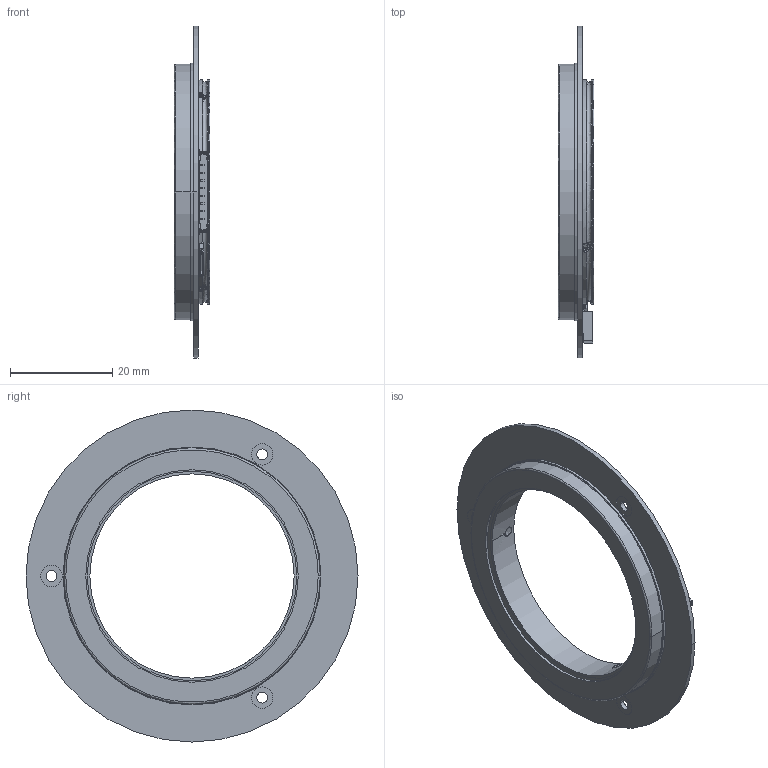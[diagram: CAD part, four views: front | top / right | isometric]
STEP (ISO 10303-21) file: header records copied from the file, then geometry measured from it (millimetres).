
FILE_DESCRIPTION (( 'STEP AP214' ), '1' );
FILE_NAME ('MBS-40-65¸üÐÂ.STEP', '2024-07-16T05:51:58', ( '' ), ( '' ), 'SwSTEP 2.0', 'SolidWorks 2016', '' );
FILE_SCHEMA (( 'AUTOMOTIVE_DESIGN' ));
Length unit declared in the file: millimetre
Products named in the file (1): MBS-40-65載陔
Bounding box: 7.01 x 65 x 65 mm (x, y, z)
Volume: 3698.5 mm3; surface area: 10074.9 mm2
Topology: 6 solids, 46 shells, 1392 faces, 3736 edges, 2445 vertices
Faces by surface type: plane 901, bspline 328, cylinder 148, cone 15
Entity records: 111347 total; most frequent: CARTESIAN_POINT 72290, ORIENTED_EDGE 7440, DIRECTION 5446, EDGE_CURVE 3720, VECTOR 2700, LINE 2700, VERTEX_POINT 2445, EDGE_LOOP 1469
